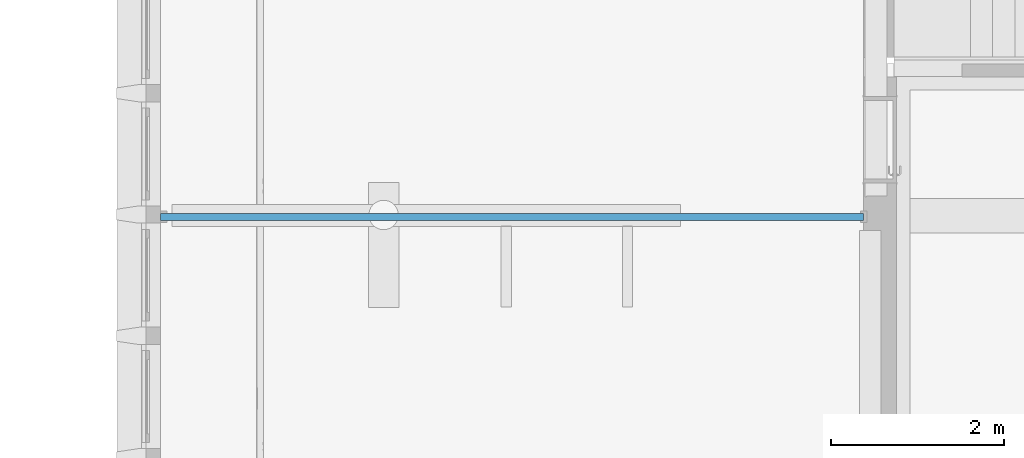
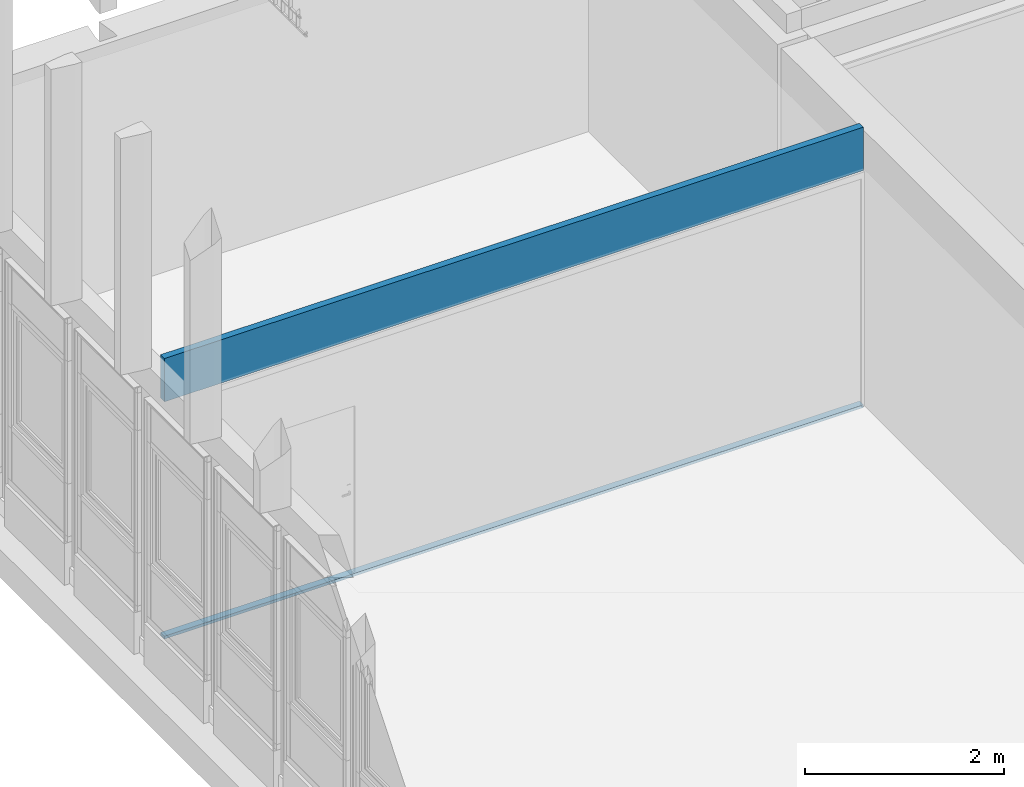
# One storey, part 24 of 65: 1 wall, 1 opening.
"""IFC4 building model written with IfcOpenShell, lengths in metres."""

from ifc_helpers import new_model, entity, si_unit, converted_unit, derived_unit, direction, frame, origin, place, context, subcontext, project, spatial, indexed_curve, outline, extrude, polygons, material, layer, layer_set, type_object, element, save


model = new_model("IFC4")

# Units and contexts
model_context = context("Model", 3, precision=1e-05, world=origin(), true_north=direction((6.12303176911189e-17, 1.0)))
body_context = subcontext(model_context, "Body", "Model", "MODEL_VIEW")
ifc_project = project(units=[si_unit("LENGTHUNIT", "METRE"), si_unit("AREAUNIT", "SQUARE_METRE"), si_unit("VOLUMEUNIT", "CUBIC_METRE"), converted_unit("PLANEANGLEUNIT", "DEGREE", entity("IfcRatioMeasure", 0.0174532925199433), si_unit("PLANEANGLEUNIT", "RADIAN"), dimensions=[0, 0, 0, 0, 0, 0, 0]), si_unit("MASSUNIT", "GRAM", prefix="KILO"), derived_unit("MASSDENSITYUNIT", [(si_unit("MASSUNIT", "GRAM", prefix="KILO"), 1), (si_unit("LENGTHUNIT", "METRE"), -3)]), derived_unit("MOMENTOFINERTIAUNIT", [(si_unit("LENGTHUNIT", "METRE"), 4)]), si_unit("TIMEUNIT", "SECOND"), si_unit("FREQUENCYUNIT", "HERTZ"), si_unit("THERMODYNAMICTEMPERATUREUNIT", "DEGREE_CELSIUS"), derived_unit("THERMALTRANSMITTANCEUNIT", [(si_unit("MASSUNIT", "GRAM", prefix="KILO"), 1), (si_unit("THERMODYNAMICTEMPERATUREUNIT", "KELVIN"), -1), (si_unit("TIMEUNIT", "SECOND"), -3)]), derived_unit("VOLUMETRICFLOWRATEUNIT", [(si_unit("LENGTHUNIT", "METRE"), 3), (si_unit("TIMEUNIT", "SECOND"), -1)]), si_unit("ELECTRICCURRENTUNIT", "AMPERE"), si_unit("ELECTRICVOLTAGEUNIT", "VOLT"), si_unit("POWERUNIT", "WATT"), si_unit("FORCEUNIT", "NEWTON", prefix="KILO"), si_unit("ILLUMINANCEUNIT", "LUX"), si_unit("LUMINOUSFLUXUNIT", "LUMEN"), si_unit("LUMINOUSINTENSITYUNIT", "CANDELA"), derived_unit("USERDEFINED", [(si_unit("MASSUNIT", "GRAM", prefix="KILO"), -1), (si_unit("LENGTHUNIT", "METRE"), -2), (si_unit("TIMEUNIT", "SECOND"), 3), (si_unit("LUMINOUSFLUXUNIT", "LUMEN"), 1)]), derived_unit("LINEARVELOCITYUNIT", [(si_unit("LENGTHUNIT", "METRE"), 1), (si_unit("TIMEUNIT", "SECOND"), -1)]), si_unit("PRESSUREUNIT", "PASCAL"), derived_unit("USERDEFINED", [(si_unit("LENGTHUNIT", "METRE"), -2), (si_unit("MASSUNIT", "GRAM", prefix="KILO"), 1), (si_unit("TIMEUNIT", "SECOND"), -2)]), derived_unit("LINEARFORCEUNIT", [(si_unit("MASSUNIT", "GRAM", prefix="KILO"), 1), (si_unit("LENGTHUNIT", "METRE"), 1), (si_unit("TIMEUNIT", "SECOND"), -2), (si_unit("LENGTHUNIT", "METRE"), -1)]), derived_unit("PLANARFORCEUNIT", [(si_unit("MASSUNIT", "GRAM", prefix="KILO"), 1), (si_unit("LENGTHUNIT", "METRE"), 1), (si_unit("TIMEUNIT", "SECOND"), -2), (si_unit("LENGTHUNIT", "METRE"), -2)])], contexts=[model_context])

# Site, building, storey
site_placement = place(None, origin())
site = spatial("IfcSite", under=ifc_project, at=site_placement, Name="Default", CompositionType="ELEMENT")
building_placement = place(site_placement, origin())
building = spatial("IfcBuilding", under=site, at=building_placement, Name="HOTEL CONSULAIRE BOULOGNE SUR MER", CompositionType="ELEMENT")
storey_placement = place(building_placement, origin())
storey = spatial("IfcBuildingStorey", under=building, at=storey_placement, Name="Niveau 0", CompositionType="ELEMENT", Elevation=1.31981936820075e-13)

# Wall, opening
ifc_material = material(Name="Mur par défaut", Category="Divers")
ifc_layer = layer(ifc_material, 0.08, Name="Mur par défaut", Category="Divers")
ifc_layer_set = layer_set([ifc_layer], Name="Mur de base:Générique - Int. 80")
wall_type = type_object("IfcWallType", Name="Mur de base:Générique - Int. 80", PredefinedType="NOTDEFINED", material=ifc_layer_set)
wall_placement = place(storey_placement, frame((-13.6190998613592, -15.6372921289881, -0.0200000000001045)))
wall = element("IfcWall", 1, at=wall_placement, inside=storey, type_object=wall_type, material=ifc_layer_set, Name="Mur de base:Générique - Int. 80", ObjectType="Mur de base:Générique - Int. 80", PredefinedType="NOTDEFINED", context=body_context, shape_type="Tessellation", body=[
    polygons([(-1.74511356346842e-16, -0.0399999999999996, 0.0), (8.10932668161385, -0.0399999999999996, 0.0), (8.10932668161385, -0.0399999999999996, 0.035), (-1.74511356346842e-16, -0.0399999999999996, 0.0350000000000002), (8.10932668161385, 0.0399999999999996, 0.0), (-4.05703874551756e-16, 0.0399999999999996, 0.0), (-4.05703874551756e-16, 0.0399999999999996, 0.035), (8.10932668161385, 0.0399999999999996, 0.0350000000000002)], [[[4, 1, 2, 3]], [[8, 5, 6, 7]], [[2, 1, 6, 5]], [[7, 6, 1, 4]], [[2, 5, 8, 3]], [[3, 8, 7, 4]]], closed=True),
    polygons([(-4.05703874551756e-16, 0.0399999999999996, 3.44152697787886), (8.10932668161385, 0.0399999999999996, 3.44152697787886), (8.10932668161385, 0.0399999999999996, 2.90999999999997), (-4.05703874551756e-16, 0.0399999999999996, 2.90999999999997), (8.10932668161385, -0.0399999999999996, 3.44152697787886), (8.10932668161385, -0.0399999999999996, 2.90999999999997), (-1.74511356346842e-16, -0.0399999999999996, 3.44152697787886), (-1.74511356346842e-16, -0.0399999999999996, 2.90999999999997)], [[[2, 3, 4, 1]], [[6, 3, 2, 5]], [[1, 4, 8, 7]], [[7, 8, 6, 5]], [[7, 5, 2, 1]], [[8, 4, 3, 6]]], closed=True),
])
opening_placement = place(wall_placement, frame((8.15, 0.0399999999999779, 0.0350000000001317)))
element("IfcOpeningElement", 2, at=opening_placement, cuts=wall, Name="Mur mobile:Mur mobile:1", ObjectType="Opening", PredefinedType="OPENING", context=body_context, shape_type="SweptSolid", body=[
    extrude(outline(indexed_curve([(0.0, 0.0), (2.87499999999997, 0.0), (2.87499999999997, 8.15), (2.45337083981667e-16, 8.15), (0.0, 0.0)], self_intersect=False)), frame((0.0, 0.0, 0.0), z_axis=(0.0, -1.0, 0.0), x_axis=(0.0, 0.0, 1.0)), (0.0, 0.0, 1.0), 0.08),
])

save(model, "model.ifc")
